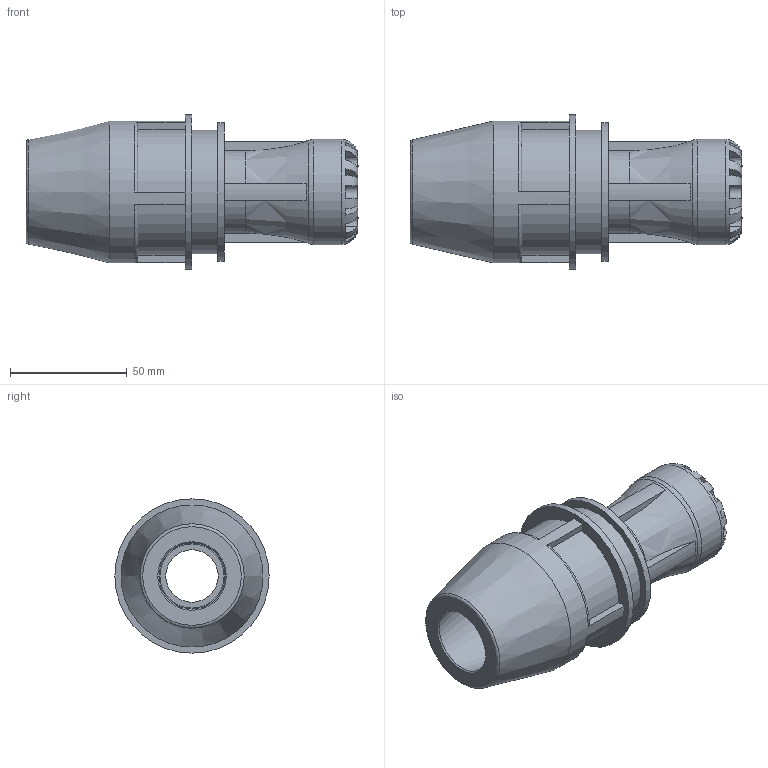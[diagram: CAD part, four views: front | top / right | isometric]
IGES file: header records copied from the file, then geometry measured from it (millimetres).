
Global section: file name: 100170025028.ipt; native system: Autodesk Inventor 2015; preprocessor: unknown; author: KIM; date: 20190127.091348; units: millimetre
Bounding box: 142 x 66 x 66 mm (x, y, z)
Volume: 182615.9 mm3; surface area: 44959.7 mm2
Topology: 1 solids, 1 shells, 125 faces, 329 edges, 213 vertices
Faces by surface type: plane 77, cylinder 25, revolution 22, cone 1
Full cylindrical faces by diameter (mm): 45 x1, 52.8 x1, 59.4 x1, 60.72 x1, 66 x1
